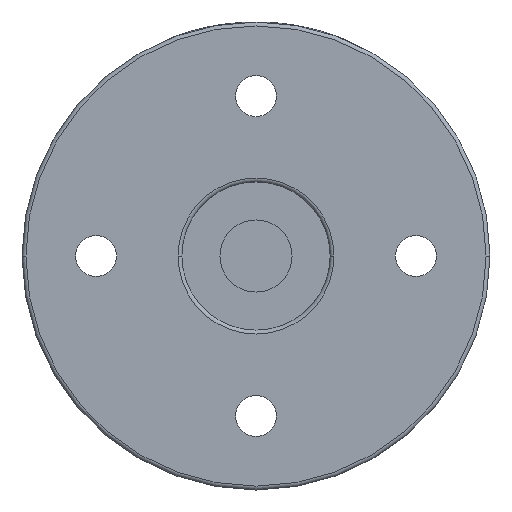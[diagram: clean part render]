
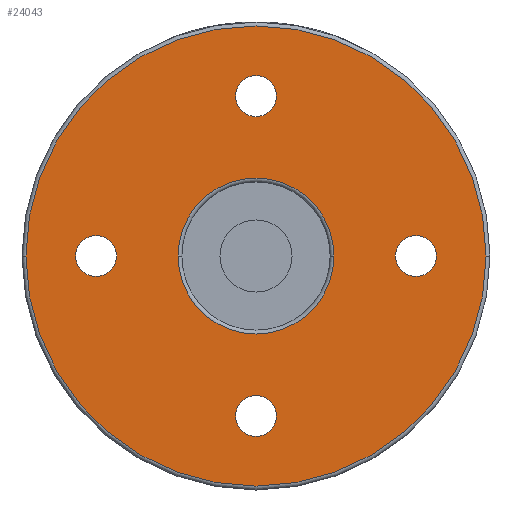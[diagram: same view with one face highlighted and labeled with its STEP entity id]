
A CAD part, front view. The second image highlights one B-rep face of the part: STEP entity #24043.
In plain terms, the highlighted planar face has unit normal (0, -1, 0) as drawn and (0, 0, 1) by its records, which use the part's own axes.
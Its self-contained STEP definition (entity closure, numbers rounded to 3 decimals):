
#52 = FACE_BOUND ( 'NONE', #23331, .T. ) ;
#333 = CARTESIAN_POINT ( 'NONE',  ( 5.25, 41., 35. ) ) ;
#338 = CIRCLE ( 'NONE', #23816, 5.25 ) ;
#675 = VERTEX_POINT ( 'NONE', #14721 ) ;
#843 = DIRECTION ( 'NONE',  ( 1., 0., 0. ) ) ;
#1376 = VERTEX_POINT ( 'NONE', #11083 ) ;
#1390 = DIRECTION ( 'NONE',  ( 0., 0., -1. ) ) ;
#1442 = EDGE_CURVE ( 'NONE', #19502, #17684, #10062, .T. ) ;
#1481 = EDGE_LOOP ( 'NONE', ( #25162, #8281 ) ) ;
#1609 = AXIS2_PLACEMENT_3D ( 'NONE', #17105, #25376, #6760 ) ;
#2126 = ORIENTED_EDGE ( 'NONE', *, *, #6758, .T. ) ;
#2137 = ORIENTED_EDGE ( 'NONE', *, *, #3023, .T. ) ;
#2348 = AXIS2_PLACEMENT_3D ( 'NONE', #7478, #15780, #24064 ) ;
#2543 = CIRCLE ( 'NONE', #8213, 5.25 ) ;
#2728 = CARTESIAN_POINT ( 'NONE',  ( 0., 41., 35. ) ) ;
#3023 = EDGE_CURVE ( 'NONE', #15481, #17222, #338, .T. ) ;
#3794 = CARTESIAN_POINT ( 'NONE',  ( 0., 0., 35. ) ) ;
#4000 = CARTESIAN_POINT ( 'NONE',  ( 59., 0., 35. ) ) ;
#4301 = DIRECTION ( 'NONE',  ( 1., 0., 0. ) ) ;
#4570 = VERTEX_POINT ( 'NONE', #25943 ) ;
#4697 = EDGE_LOOP ( 'NONE', ( #2137, #20441 ) ) ;
#4763 = CARTESIAN_POINT ( 'NONE',  ( -5.25, -41., 35. ) ) ;
#4915 = DIRECTION ( 'NONE',  ( 1., 0., 0. ) ) ;
#4927 = AXIS2_PLACEMENT_3D ( 'NONE', #6388, #14696, #22982 ) ;
#5555 = ORIENTED_EDGE ( 'NONE', *, *, #1442, .T. ) ;
#5684 = EDGE_CURVE ( 'NONE', #6408, #19727, #23358, .T. ) ;
#5703 = EDGE_CURVE ( 'NONE', #22096, #675, #5970, .T. ) ;
#5732 = CARTESIAN_POINT ( 'NONE',  ( 0., 0., 35. ) ) ;
#5752 = ORIENTED_EDGE ( 'NONE', *, *, #18461, .T. ) ;
#5970 = CIRCLE ( 'NONE', #24631, 59. ) ;
#6238 = CARTESIAN_POINT ( 'NONE',  ( -41., 0., 35. ) ) ;
#6356 = PLANE ( 'NONE',  #8676 ) ;
#6387 = CARTESIAN_POINT ( 'NONE',  ( -41., 0., 35. ) ) ;
#6388 = CARTESIAN_POINT ( 'NONE',  ( 41., 0., 35. ) ) ;
#6408 = VERTEX_POINT ( 'NONE', #16111 ) ;
#6536 = DIRECTION ( 'NONE',  ( 1., 0., 0. ) ) ;
#6731 = AXIS2_PLACEMENT_3D ( 'NONE', #6238, #14552, #22832 ) ;
#6758 = EDGE_CURVE ( 'NONE', #17684, #19502, #21219, .T. ) ;
#6760 = DIRECTION ( 'NONE',  ( 1., 0., 0. ) ) ;
#6934 = CARTESIAN_POINT ( 'NONE',  ( -35.75, 0., 35. ) ) ;
#7432 = EDGE_LOOP ( 'NONE', ( #13910, #19680 ) ) ;
#7478 = CARTESIAN_POINT ( 'NONE',  ( 0., -41., 35. ) ) ;
#8213 = AXIS2_PLACEMENT_3D ( 'NONE', #13823, #1390, #9737 ) ;
#8281 = ORIENTED_EDGE ( 'NONE', *, *, #26799, .T. ) ;
#8407 = FACE_BOUND ( 'NONE', #11800, .T. ) ;
#8676 = AXIS2_PLACEMENT_3D ( 'NONE', #14666, #22950, #4301 ) ;
#9737 = DIRECTION ( 'NONE',  ( 1., 0., 0. ) ) ;
#10062 = CIRCLE ( 'NONE', #21783, 20. ) ;
#10453 = FACE_OUTER_BOUND ( 'NONE', #1481, .T. ) ;
#10781 = AXIS2_PLACEMENT_3D ( 'NONE', #2728, #17306, #25582 ) ;
#11083 = CARTESIAN_POINT ( 'NONE',  ( 5.25, -41., 35. ) ) ;
#11235 = CARTESIAN_POINT ( 'NONE',  ( 41., 0., 35. ) ) ;
#11728 = EDGE_CURVE ( 'NONE', #19727, #6408, #25128, .T. ) ;
#11800 = EDGE_LOOP ( 'NONE', ( #26868, #5752 ) ) ;
#11843 = CARTESIAN_POINT ( 'NONE',  ( 20., 0., 35. ) ) ;
#11980 = EDGE_CURVE ( 'NONE', #1376, #15761, #2543, .T. ) ;
#12135 = DIRECTION ( 'NONE',  ( 0., 0., -1. ) ) ;
#12974 = AXIS2_PLACEMENT_3D ( 'NONE', #3794, #12135, #20408 ) ;
#13477 = CIRCLE ( 'NONE', #16965, 59. ) ;
#13823 = CARTESIAN_POINT ( 'NONE',  ( 0., -41., 35. ) ) ;
#13846 = VERTEX_POINT ( 'NONE', #6934 ) ;
#13910 = ORIENTED_EDGE ( 'NONE', *, *, #18182, .T. ) ;
#14052 = DIRECTION ( 'NONE',  ( 0., 0., -1. ) ) ;
#14113 = CIRCLE ( 'NONE', #2348, 5.25 ) ;
#14552 = DIRECTION ( 'NONE',  ( 0., 0., -1. ) ) ;
#14666 = CARTESIAN_POINT ( 'NONE',  ( 0., 0., 35. ) ) ;
#14695 = DIRECTION ( 'NONE',  ( 0., 0., -1. ) ) ;
#14696 = DIRECTION ( 'NONE',  ( 0., 0., -1. ) ) ;
#14721 = CARTESIAN_POINT ( 'NONE',  ( -59., 0., 35. ) ) ;
#15268 = CARTESIAN_POINT ( 'NONE',  ( 0., 0., 35. ) ) ;
#15372 = EDGE_CURVE ( 'NONE', #17222, #15481, #16678, .T. ) ;
#15481 = VERTEX_POINT ( 'NONE', #21088 ) ;
#15719 = CARTESIAN_POINT ( 'NONE',  ( 46.25, 0., 35. ) ) ;
#15761 = VERTEX_POINT ( 'NONE', #4763 ) ;
#15780 = DIRECTION ( 'NONE',  ( 0., 0., -1. ) ) ;
#16111 = CARTESIAN_POINT ( 'NONE',  ( -5.25, 41., 35. ) ) ;
#16678 = CIRCLE ( 'NONE', #4927, 5.25 ) ;
#16708 = FACE_BOUND ( 'NONE', #7432, .T. ) ;
#16877 = CARTESIAN_POINT ( 'NONE',  ( 0., 0., 35. ) ) ;
#16928 = CARTESIAN_POINT ( 'NONE',  ( -20., 0., 35. ) ) ;
#16965 = AXIS2_PLACEMENT_3D ( 'NONE', #16877, #25147, #6536 ) ;
#17105 = CARTESIAN_POINT ( 'NONE',  ( 0., 41., 35. ) ) ;
#17222 = VERTEX_POINT ( 'NONE', #15719 ) ;
#17306 = DIRECTION ( 'NONE',  ( 0., 0., -1. ) ) ;
#17684 = VERTEX_POINT ( 'NONE', #16928 ) ;
#18182 = EDGE_CURVE ( 'NONE', #15761, #1376, #14113, .T. ) ;
#18448 = CIRCLE ( 'NONE', #6731, 5.25 ) ;
#18461 = EDGE_CURVE ( 'NONE', #13846, #4570, #18448, .T. ) ;
#18737 = FACE_BOUND ( 'NONE', #25099, .T. ) ;
#19502 = VERTEX_POINT ( 'NONE', #11843 ) ;
#19527 = DIRECTION ( 'NONE',  ( 0., 0., -1. ) ) ;
#19680 = ORIENTED_EDGE ( 'NONE', *, *, #11980, .T. ) ;
#19727 = VERTEX_POINT ( 'NONE', #333 ) ;
#20408 = DIRECTION ( 'NONE',  ( 1., 0., 0. ) ) ;
#20441 = ORIENTED_EDGE ( 'NONE', *, *, #15372, .T. ) ;
#20483 = ORIENTED_EDGE ( 'NONE', *, *, #5684, .T. ) ;
#20812 = CIRCLE ( 'NONE', #24276, 5.25 ) ;
#21088 = CARTESIAN_POINT ( 'NONE',  ( 35.75, 0., 35. ) ) ;
#21219 = CIRCLE ( 'NONE', #12974, 20. ) ;
#21783 = AXIS2_PLACEMENT_3D ( 'NONE', #5732, #14052, #22336 ) ;
#22096 = VERTEX_POINT ( 'NONE', #4000 ) ;
#22336 = DIRECTION ( 'NONE',  ( 1., 0., 0. ) ) ;
#22832 = DIRECTION ( 'NONE',  ( 1., 0., 0. ) ) ;
#22950 = DIRECTION ( 'NONE',  ( 0., 0., 1. ) ) ;
#22981 = DIRECTION ( 'NONE',  ( 1., 0., 0. ) ) ;
#22982 = DIRECTION ( 'NONE',  ( 1., 0., 0. ) ) ;
#23331 = EDGE_LOOP ( 'NONE', ( #20483, #26431 ) ) ;
#23358 = CIRCLE ( 'NONE', #10781, 5.25 ) ;
#23546 = DIRECTION ( 'NONE',  ( 0., 0., 1. ) ) ;
#23666 = EDGE_CURVE ( 'NONE', #4570, #13846, #20812, .T. ) ;
#23816 = AXIS2_PLACEMENT_3D ( 'NONE', #11235, #19527, #843 ) ;
#24043 = ADVANCED_FACE ( 'NONE', ( #10453, #18737, #52, #8407, #16708, #24972 ), #6356, .T. ) ;
#24064 = DIRECTION ( 'NONE',  ( 1., 0., 0. ) ) ;
#24276 = AXIS2_PLACEMENT_3D ( 'NONE', #6387, #14695, #22981 ) ;
#24631 = AXIS2_PLACEMENT_3D ( 'NONE', #15268, #23546, #4915 ) ;
#24972 = FACE_BOUND ( 'NONE', #4697, .T. ) ;
#25099 = EDGE_LOOP ( 'NONE', ( #5555, #2126 ) ) ;
#25128 = CIRCLE ( 'NONE', #1609, 5.25 ) ;
#25147 = DIRECTION ( 'NONE',  ( 0., 0., 1. ) ) ;
#25162 = ORIENTED_EDGE ( 'NONE', *, *, #5703, .T. ) ;
#25376 = DIRECTION ( 'NONE',  ( 0., 0., -1. ) ) ;
#25582 = DIRECTION ( 'NONE',  ( 1., 0., 0. ) ) ;
#25943 = CARTESIAN_POINT ( 'NONE',  ( -46.25, 0., 35. ) ) ;
#26431 = ORIENTED_EDGE ( 'NONE', *, *, #11728, .T. ) ;
#26799 = EDGE_CURVE ( 'NONE', #675, #22096, #13477, .T. ) ;
#26868 = ORIENTED_EDGE ( 'NONE', *, *, #23666, .T. ) ;
